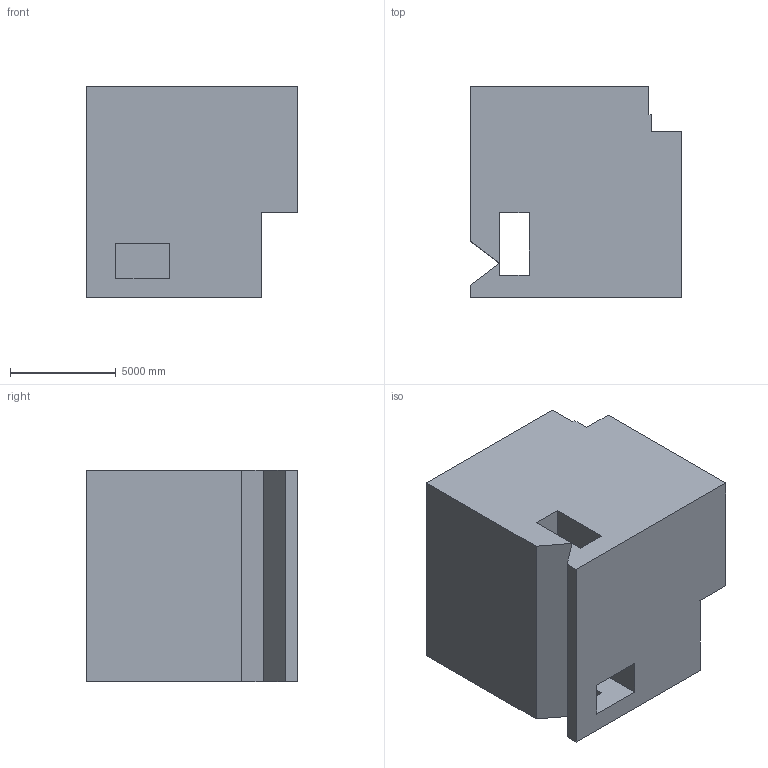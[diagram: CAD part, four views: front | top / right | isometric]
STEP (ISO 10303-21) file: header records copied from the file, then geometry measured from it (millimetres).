
FILE_DESCRIPTION (( 'STEP AP203' ), '1' );
FILE_NAME ('505.STEP', '2022-07-29T11:33:23', ( 'user' ), ( '' ), 'SwSTEP 2.0', 'SolidWorks 2021', '' );
FILE_SCHEMA (( 'CONFIG_CONTROL_DESIGN' ));
Length unit declared in the file: centimetre
Products named in the file (1): 505
Bounding box: 10000 x 10000 x 10000 mm (x, y, z)
Volume: 810417025012.9 mm3; surface area: 699855373.4 mm2
Topology: 1 solids, 1 shells, 27 faces, 78 edges, 52 vertices
Faces by surface type: plane 27
Entity records: 957 total; most frequent: CARTESIAN_POINT 158, ORIENTED_EDGE 156, DIRECTION 134, VECTOR 78, LINE 78, EDGE_CURVE 78, VERTEX_POINT 52, EDGE_LOOP 30
